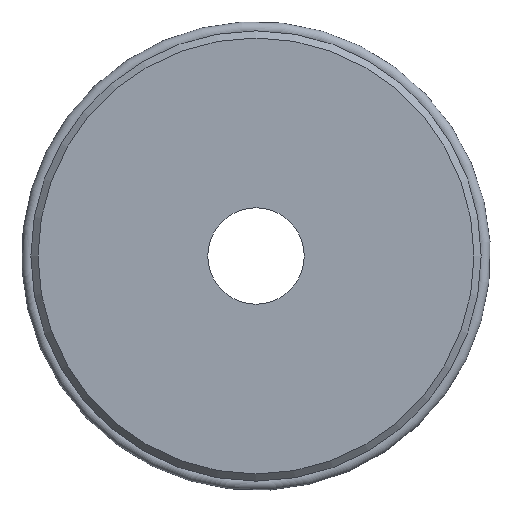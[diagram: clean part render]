
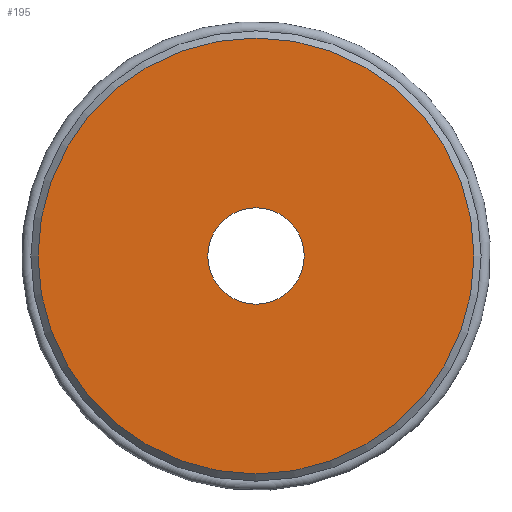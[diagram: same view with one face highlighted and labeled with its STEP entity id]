
A CAD part, front view. The second image highlights one B-rep face of the part: STEP entity #195.
In plain terms, the highlighted planar face has unit normal (0, -1, 0).
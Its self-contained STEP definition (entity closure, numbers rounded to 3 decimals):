
#16=FACE_BOUND('',#42,.T.);
#20=PLANE('',#232);
#30=FACE_OUTER_BOUND('',#41,.T.);
#41=EDGE_LOOP('',(#139));
#42=EDGE_LOOP('',(#140));
#66=CIRCLE('',#226,15.25);
#71=CIRCLE('',#233,3.375);
#85=VERTEX_POINT('',#325);
#90=VERTEX_POINT('',#339);
#103=EDGE_CURVE('',#85,#85,#66,.T.);
#110=EDGE_CURVE('',#90,#90,#71,.T.);
#139=ORIENTED_EDGE('',*,*,#103,.F.);
#140=ORIENTED_EDGE('',*,*,#110,.T.);
#195=ADVANCED_FACE('',(#30,#16),#20,.T.);
#226=AXIS2_PLACEMENT_3D('',#326,#259,#260);
#232=AXIS2_PLACEMENT_3D('',#338,#273,#274);
#233=AXIS2_PLACEMENT_3D('',#340,#275,#276);
#259=DIRECTION('center_axis',(0.,1.,0.));
#260=DIRECTION('ref_axis',(-1.,0.,0.));
#273=DIRECTION('center_axis',(0.,-1.,0.));
#274=DIRECTION('ref_axis',(0.,0.,-1.));
#275=DIRECTION('center_axis',(0.,1.,0.));
#276=DIRECTION('ref_axis',(1.,0.,0.));
#325=CARTESIAN_POINT('',(2.455,-20.106,3.285));
#326=CARTESIAN_POINT('Origin',(-12.795,-20.106,3.285));
#338=CARTESIAN_POINT('Origin',(-12.795,-20.106,3.285));
#339=CARTESIAN_POINT('',(-16.17,-20.106,3.285));
#340=CARTESIAN_POINT('Origin',(-12.795,-20.106,3.285));
